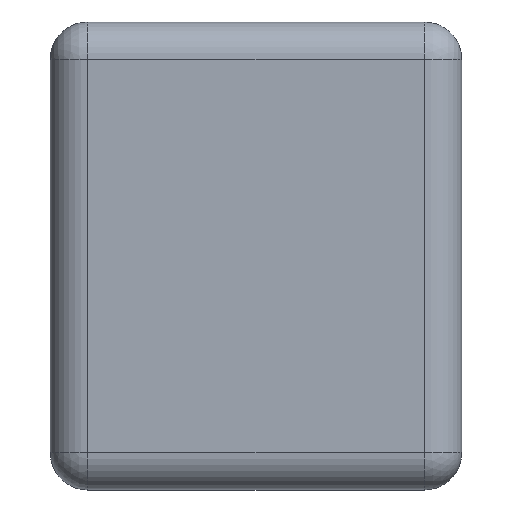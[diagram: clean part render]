
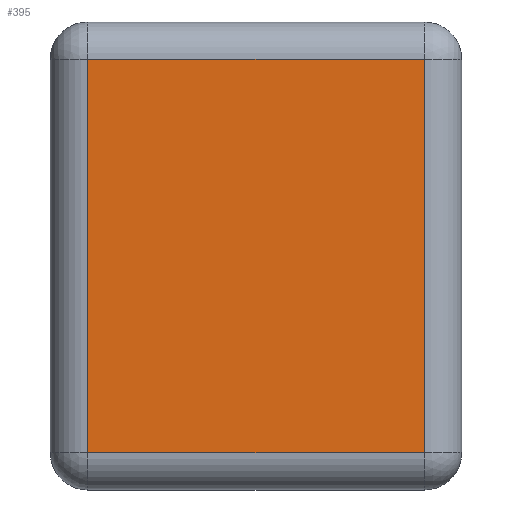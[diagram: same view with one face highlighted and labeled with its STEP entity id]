
A CAD part, left-side view. The second image highlights one B-rep face of the part: STEP entity #395.
In plain terms, the highlighted planar face has unit normal (-1, 0, 0).
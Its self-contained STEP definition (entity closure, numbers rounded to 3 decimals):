
#26 = CARTESIAN_POINT ( 'NONE',  ( -1., 0.1, -0.525 ) ) ;
#27 = VERTEX_POINT ( 'NONE', #26 ) ;
#242 = CARTESIAN_POINT ( 'NONE',  ( -1., 1., 0.526 ) ) ;
#243 = VERTEX_POINT ( 'NONE', #242 ) ;
#360 = CARTESIAN_POINT ( 'NONE',  ( -1., 0.1, 0.526 ) ) ;
#361 = VERTEX_POINT ( 'NONE', #360 ) ;
#362 = CARTESIAN_POINT ( 'NONE',  ( -1., 1.1, 0.526 ) ) ;
#363 = DIRECTION ( 'NONE',  ( 0., 1., 0. ) ) ;
#364 = VECTOR ( 'NONE', #363, 1000. ) ;
#365 = LINE ( 'NONE', #362, #364 ) ;
#366 = EDGE_CURVE ( 'NONE', #361, #243, #365, .T. ) ;
#367 = ORIENTED_EDGE ( 'NONE', *, *, #366, .T. ) ;
#368 = CARTESIAN_POINT ( 'NONE',  ( -1., 1., -0.525 ) ) ;
#369 = VERTEX_POINT ( 'NONE', #368 ) ;
#370 = CARTESIAN_POINT ( 'NONE',  ( -1., 1., -0.625 ) ) ;
#371 = DIRECTION ( 'NONE',  ( 0., 0., -1. ) ) ;
#372 = VECTOR ( 'NONE', #371, 1000. ) ;
#373 = LINE ( 'NONE', #370, #372 ) ;
#374 = EDGE_CURVE ( 'NONE', #243, #369, #373, .T. ) ;
#375 = ORIENTED_EDGE ( 'NONE', *, *, #374, .T. ) ;
#376 = CARTESIAN_POINT ( 'NONE',  ( -1., 0., -0.525 ) ) ;
#377 = DIRECTION ( 'NONE',  ( 0., -1., 0. ) ) ;
#378 = VECTOR ( 'NONE', #377, 1000. ) ;
#379 = LINE ( 'NONE', #376, #378 ) ;
#380 = EDGE_CURVE ( 'NONE', #369, #27, #379, .T. ) ;
#381 = ORIENTED_EDGE ( 'NONE', *, *, #380, .T. ) ;
#382 = CARTESIAN_POINT ( 'NONE',  ( -1., 0.1, 0.626 ) ) ;
#383 = DIRECTION ( 'NONE',  ( 0., 0., 1. ) ) ;
#384 = VECTOR ( 'NONE', #383, 1000. ) ;
#385 = LINE ( 'NONE', #382, #384 ) ;
#386 = EDGE_CURVE ( 'NONE', #27, #361, #385, .T. ) ;
#387 = ORIENTED_EDGE ( 'NONE', *, *, #386, .T. ) ;
#388 = EDGE_LOOP ( 'NONE', ( #367, #375, #381, #387 ) ) ;
#389 = FACE_OUTER_BOUND ( 'NONE', #388, .T. ) ;
#390 = CARTESIAN_POINT ( 'NONE',  ( -1., 0., 0. ) ) ;
#391 = DIRECTION ( 'NONE',  ( -1., 0., 0. ) ) ;
#392 = DIRECTION ( 'NONE',  ( 0., 0., 1. ) ) ;
#393 = AXIS2_PLACEMENT_3D ( 'NONE', #390, #391, #392 ) ;
#394 = PLANE ( 'NONE', #393 ) ;
#395 = ADVANCED_FACE ( 'NONE', ( #389 ), #394, .T. ) ;
